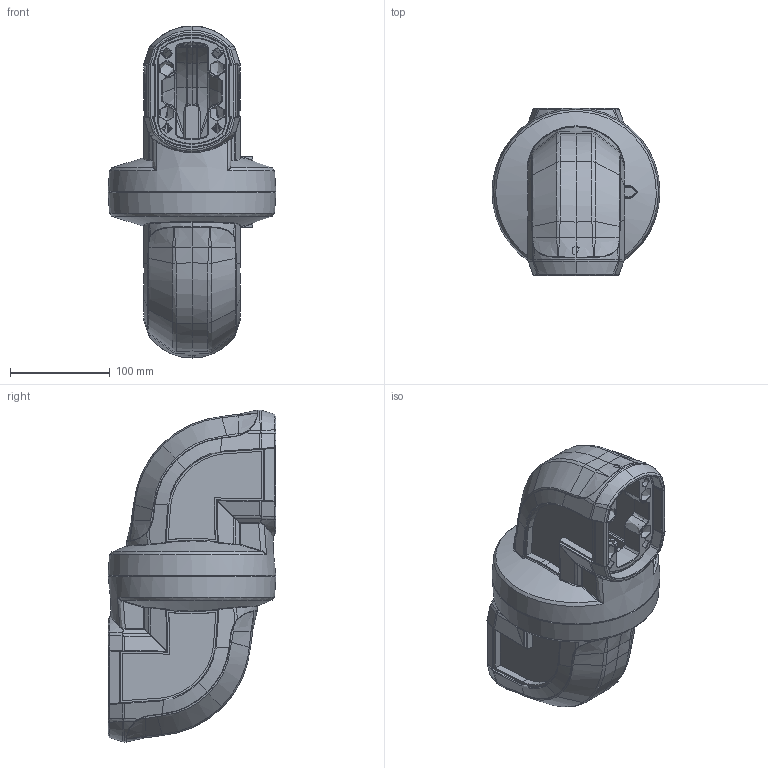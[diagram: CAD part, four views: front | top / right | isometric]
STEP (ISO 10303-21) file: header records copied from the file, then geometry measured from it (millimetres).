
FILE_DESCRIPTION(/* description */ (''),/* implementation_level */ '2;1');
FILE_NAME(/* name */ '75-110-530.stp',/* time_stamp */ '2025-03-19T12:58:51+08:00',/* author */ (''),/* organization */ (''),/* preprocessor_version */ 'ST-DEVELOPER v11',/* originating_system */ 'SIEMENS PLM Software NX 7.0',/* authorisation */ '');
FILE_SCHEMA (('AUTOMOTIVE_DESIGN { 1 0 10303 214 1 1 1 1 }'));
Length unit declared in the file: millimetre
Products named in the file (1): PC615Dcm3r
Bounding box: 167.92 x 167.92 x 332.08 mm (x, y, z)
Volume: 1034546.3 mm3; surface area: 431091.1 mm2
Topology: 4 solids, 20 shells, 3300 faces, 7890 edges, 4634 vertices
Faces by surface type: bspline 1822, cylinder 526, plane 446, torus 256, cone 168, extrusion 50, sphere 32
Full cylindrical faces by diameter (mm): 3.5 x4, 4.5 x2, 8.5 x2, 9.398 x8, 13.643 x8
Entity records: 164193 total; most frequent: CARTESIAN_POINT 97037, ORIENTED_EDGE 15004, DIRECTION 8604, EDGE_CURVE 7502, VERTEX_POINT 4524, B_SPLINE_CURVE_WITH_KNOTS 3708, AXIS2_PLACEMENT_3D 3699, EDGE_LOOP 3674
